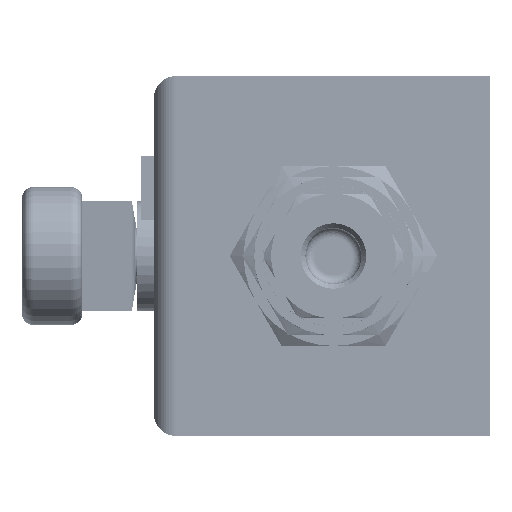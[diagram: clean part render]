
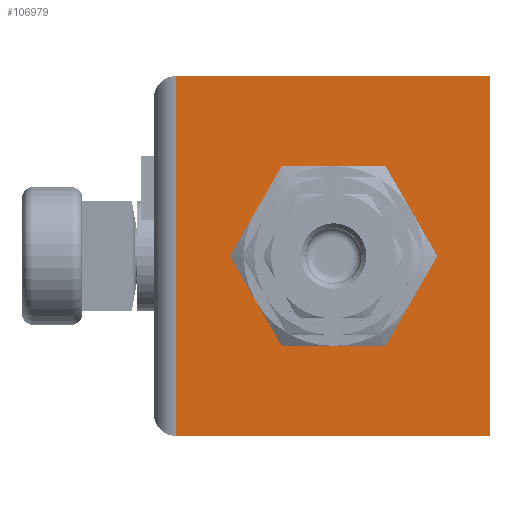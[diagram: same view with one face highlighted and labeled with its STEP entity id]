
A CAD part, left-side view. The second image highlights one B-rep face of the part: STEP entity #106979.
In plain terms, the highlighted planar face has unit normal (-1, 0, 0).
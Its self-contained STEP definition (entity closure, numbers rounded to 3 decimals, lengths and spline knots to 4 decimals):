
#1134=FACE_BOUND('',#33691,.T.);
#8666=LINE('',#191211,#15833);
#8683=LINE('',#191258,#15850);
#8684=LINE('',#191260,#15851);
#8685=LINE('',#191261,#15852);
#8686=LINE('',#191264,#15853);
#8687=LINE('',#191266,#15854);
#8688=LINE('',#191268,#15855);
#8689=LINE('',#191270,#15856);
#8690=LINE('',#191272,#15857);
#8691=LINE('',#191273,#15858);
#15833=VECTOR('',#152858,0.3937);
#15850=VECTOR('',#152907,0.3937);
#15851=VECTOR('',#152908,0.3937);
#15852=VECTOR('',#152909,0.3937);
#15853=VECTOR('',#152910,0.3937);
#15854=VECTOR('',#152911,0.3937);
#15855=VECTOR('',#152912,0.3937);
#15856=VECTOR('',#152913,0.3937);
#15857=VECTOR('',#152914,0.3937);
#15858=VECTOR('',#152915,0.3937);
#21209=PLANE('',#120043);
#27229=FACE_OUTER_BOUND('',#33690,.T.);
#33690=EDGE_LOOP('',(#91611,#91612,#91613,#91614));
#33691=EDGE_LOOP('',(#91615,#91616,#91617,#91618,#91619,#91620));
#48650=VERTEX_POINT('',#191198);
#48655=VERTEX_POINT('',#191209);
#48669=VERTEX_POINT('',#191257);
#48670=VERTEX_POINT('',#191259);
#48671=VERTEX_POINT('',#191262);
#48672=VERTEX_POINT('',#191263);
#48673=VERTEX_POINT('',#191265);
#48674=VERTEX_POINT('',#191267);
#48675=VERTEX_POINT('',#191269);
#48676=VERTEX_POINT('',#191271);
#63134=EDGE_CURVE('',#48655,#48650,#8666,.T.);
#63157=EDGE_CURVE('',#48669,#48655,#8683,.T.);
#63158=EDGE_CURVE('',#48669,#48670,#8684,.T.);
#63159=EDGE_CURVE('',#48670,#48650,#8685,.T.);
#63160=EDGE_CURVE('',#48671,#48672,#8686,.T.);
#63161=EDGE_CURVE('',#48673,#48671,#8687,.T.);
#63162=EDGE_CURVE('',#48674,#48673,#8688,.T.);
#63163=EDGE_CURVE('',#48675,#48674,#8689,.T.);
#63164=EDGE_CURVE('',#48676,#48675,#8690,.T.);
#63165=EDGE_CURVE('',#48672,#48676,#8691,.T.);
#91611=ORIENTED_EDGE('',*,*,#63134,.F.);
#91612=ORIENTED_EDGE('',*,*,#63157,.F.);
#91613=ORIENTED_EDGE('',*,*,#63158,.T.);
#91614=ORIENTED_EDGE('',*,*,#63159,.T.);
#91615=ORIENTED_EDGE('',*,*,#63160,.F.);
#91616=ORIENTED_EDGE('',*,*,#63161,.F.);
#91617=ORIENTED_EDGE('',*,*,#63162,.F.);
#91618=ORIENTED_EDGE('',*,*,#63163,.F.);
#91619=ORIENTED_EDGE('',*,*,#63164,.F.);
#91620=ORIENTED_EDGE('',*,*,#63165,.F.);
#106979=ADVANCED_FACE('',(#27229,#1134),#21209,.T.);
#120043=AXIS2_PLACEMENT_3D('',#191256,#152905,#152906);
#152858=DIRECTION('',(0.,0.,1.));
#152905=DIRECTION('center_axis',(-1.,0.,0.));
#152906=DIRECTION('ref_axis',(0.,0.,
1.));
#152907=DIRECTION('',(0.,1.,0.));
#152908=DIRECTION('',(0.,0.,1.));
#152909=DIRECTION('',(0.,1.,0.));
#152910=DIRECTION('',(0.,1.,0.));
#152911=DIRECTION('',(0.,0.5,0.866));
#152912=DIRECTION('',(0.,-0.5,0.866));
#152913=DIRECTION('',(0.,-1.,0.));
#152914=DIRECTION('',(0.,-0.5,-0.866));
#152915=DIRECTION('',(0.,0.5,-0.866));
#191198=CARTESIAN_POINT('',(-8.3601,-2.4584,-2.6689));
#191209=CARTESIAN_POINT('',(-8.3601,-2.4584,-4.6689));
#191211=CARTESIAN_POINT('',(-8.3601,-2.4584,-4.1689));
#191256=CARTESIAN_POINT('Origin',(-8.3601,-4.2034,-4.6689));
#191257=CARTESIAN_POINT('',(-8.3601,-4.2034,-4.6689));
#191258=CARTESIAN_POINT('',(-8.3601,-4.2034,-4.6689));
#191259=CARTESIAN_POINT('',(-8.3601,-4.2034,-2.6689));
#191260=CARTESIAN_POINT('',(-8.3601,-4.2034,-4.6689));
#191261=CARTESIAN_POINT('',(-8.3601,-4.2034,-2.6689));
#191262=CARTESIAN_POINT('',(-8.3601,-3.6221,-3.1689));
#191263=CARTESIAN_POINT('',(-8.3601,-3.0447,-3.1689));
#191264=CARTESIAN_POINT('',(-8.3601,-3.9128,-3.1689));
#191265=CARTESIAN_POINT('',(-8.3601,-3.9108,-3.6689));
#191266=CARTESIAN_POINT('',(-8.3601,-4.1639,-4.1073));
#191267=CARTESIAN_POINT('',(-8.3601,-3.6221,-4.1689));
#191268=CARTESIAN_POINT('',(-8.3601,-3.5865,-4.2306));
#191269=CARTESIAN_POINT('',(-8.3601,-3.0447,-4.1689));
#191270=CARTESIAN_POINT('',(-8.3601,-3.6241,-4.1689));
#191271=CARTESIAN_POINT('',(-8.3601,-2.7561,-3.6689));
#191272=CARTESIAN_POINT('',(-8.3601,-3.1535,-4.3573));
#191273=CARTESIAN_POINT('',(-8.3601,-2.8648,-3.4806));
